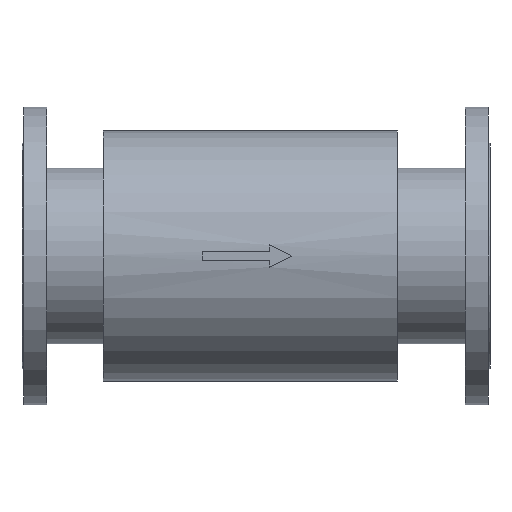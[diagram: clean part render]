
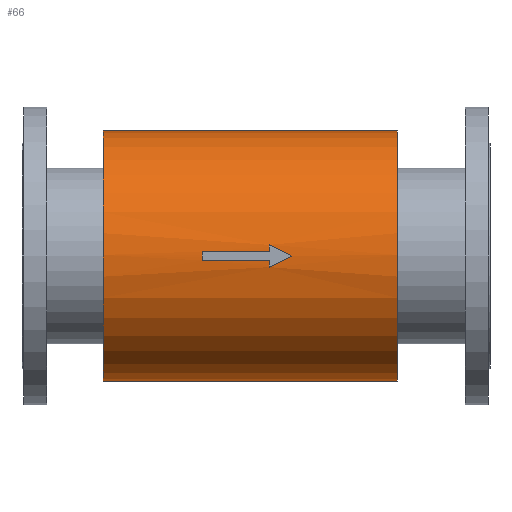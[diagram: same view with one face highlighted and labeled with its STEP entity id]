
A CAD part, front view. The second image highlights one B-rep face of the part: STEP entity #66.
In plain terms, the highlighted cylindrical face has radius 117.55 mm (diameter 235.1 mm), a partial arc.
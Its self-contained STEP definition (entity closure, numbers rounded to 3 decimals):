
#66=ADVANCED_FACE('',(#417,#418),#416,.T.);
#416=CYLINDRICAL_SURFACE('',#1091,117.55);
#417=FACE_OUTER_BOUND('',#1092,.T.);
#418=FACE_BOUND('',#1093,.T.);
#1088=CARTESIAN_POINT('',(1076.3,0.,0.));
#1089=DIRECTION('',(1.,0.,0.));
#1090=DIRECTION('',(0.,0.009,1.));
#1091=AXIS2_PLACEMENT_3D('',#1088,#1089,#1090);
#1092=EDGE_LOOP('',(#1512,#1513,#1514,#1515));
#1093=EDGE_LOOP('',(#1516,#1517,#1518,#1519,#1520,#1521,#1522));
#1512=ORIENTED_EDGE('',*,*,#1745,.T.);
#1513=ORIENTED_EDGE('',*,*,#1872,.F.);
#1514=ORIENTED_EDGE('',*,*,#1868,.F.);
#1515=ORIENTED_EDGE('',*,*,#1873,.T.);
#1516=ORIENTED_EDGE('',*,*,#1732,.T.);
#1517=ORIENTED_EDGE('',*,*,#1866,.T.);
#1518=ORIENTED_EDGE('',*,*,#1864,.T.);
#1519=ORIENTED_EDGE('',*,*,#1736,.T.);
#1520=ORIENTED_EDGE('',*,*,#1858,.T.);
#1521=ORIENTED_EDGE('',*,*,#1728,.T.);
#1522=ORIENTED_EDGE('',*,*,#1859,.T.);
#1728=EDGE_CURVE('',#1922,#1923,#1924,.T.);
#1732=EDGE_CURVE('',#1950,#1951,#1952,.T.);
#1736=EDGE_CURVE('',#1978,#1979,#1980,.T.);
#1745=EDGE_CURVE('',#2042,#2034,#2043,.T.);
#1858=EDGE_CURVE('',#1979,#1922,#2825,.T.);
#1859=EDGE_CURVE('',#1923,#1950,#2831,.T.);
#1864=EDGE_CURVE('',#2862,#1978,#2863,.T.);
#1866=EDGE_CURVE('',#1951,#2862,#2875,.T.);
#1868=EDGE_CURVE('',#2882,#2889,#2890,.T.);
#1872=EDGE_CURVE('',#2889,#2034,#2916,.T.);
#1873=EDGE_CURVE('',#2882,#2042,#2922,.T.);
#1922=VERTEX_POINT('',#3216);
#1923=VERTEX_POINT('',#3217);
#1924=CIRCLE('',#3221,117.55);
#1950=VERTEX_POINT('',#3233);
#1951=VERTEX_POINT('',#3234);
#1952=CIRCLE('',#3238,117.55);
#1978=VERTEX_POINT('',#3250);
#1979=VERTEX_POINT('',#3251);
#1980=(BOUNDED_CURVE() B_SPLINE_CURVE(2,(#3252,#3253,#3254),.UNSPECIFIED.,.F.,.F.) B_SPLINE_CURVE_WITH_KNOTS((3,3),(-4.802,-4.712),.UNSPECIFIED.) CURVE() GEOMETRIC_REPRESENTATION_ITEM() RATIONAL_B_SPLINE_CURVE((1.,0.999,1.)) REPRESENTATION_ITEM('') );
#2034=VERTEX_POINT('',#3283);
#2042=VERTEX_POINT('',#3289);
#2043=CIRCLE('',#3293,117.55);
#2825=(BOUNDED_CURVE() B_SPLINE_CURVE(2,(#3830,#3831,#3832),.UNSPECIFIED.,.F.,.F.) B_SPLINE_CURVE_WITH_KNOTS((3,3),(-1.571,-1.481),.UNSPECIFIED.) CURVE() GEOMETRIC_REPRESENTATION_ITEM() RATIONAL_B_SPLINE_CURVE((1.,0.999,1.)) REPRESENTATION_ITEM('') );
#2831=LINE('',#3833,#3834);
#2862=VERTEX_POINT('',#3850);
#2863=CIRCLE('',#3854,117.55);
#2875=LINE('',#3858,#3859);
#2882=VERTEX_POINT('',#3862);
#2889=VERTEX_POINT('',#3867);
#2890=CIRCLE('',#3871,117.55);
#2916=(BOUNDED_CURVE() B_SPLINE_CURVE(1,(#3886,#3887),.UNSPECIFIED.,.F.,.F.) B_SPLINE_CURVE_WITH_KNOTS((2,2),(0.034,0.966),.UNSPECIFIED.) CURVE() GEOMETRIC_REPRESENTATION_ITEM() RATIONAL_B_SPLINE_CURVE((1.,1.)) REPRESENTATION_ITEM('') );
#2922=(BOUNDED_CURVE() B_SPLINE_CURVE(1,(#3888,#3889),.UNSPECIFIED.,.F.,.F.) B_SPLINE_CURVE_WITH_KNOTS((2,2),(0.034,0.966),.UNSPECIFIED.) CURVE() GEOMETRIC_REPRESENTATION_ITEM() RATIONAL_B_SPLINE_CURVE((0.75,0.75)) REPRESENTATION_ITEM('') );
#3216=CARTESIAN_POINT('',(232.3,-117.08,-10.5));
#3217=CARTESIAN_POINT('',(232.3,-117.475,-4.2));
#3218=CARTESIAN_POINT('',(232.3,0.,0.));
#3219=DIRECTION('',(-1.,0.,0.));
#3220=DIRECTION('',(0.,0.,1.));
#3221=AXIS2_PLACEMENT_3D('',#3218,#3219,#3220);
#3233=CARTESIAN_POINT('',(169.3,-117.475,-4.2));
#3234=CARTESIAN_POINT('',(169.3,-117.475,4.2));
#3235=CARTESIAN_POINT('',(169.3,0.,0.));
#3236=DIRECTION('',(-1.,0.,0.));
#3237=DIRECTION('',(0.,0.,1.));
#3238=AXIS2_PLACEMENT_3D('',#3235,#3236,#3237);
#3250=CARTESIAN_POINT('',(232.3,-117.08,10.5));
#3251=CARTESIAN_POINT('',(253.3,-117.55,0.));
#3252=CARTESIAN_POINT('',(232.3,-117.08,10.5));
#3253=CARTESIAN_POINT('',(242.779,-117.55,5.261));
#3254=CARTESIAN_POINT('',(253.3,-117.55,0.));
#3283=CARTESIAN_POINT('',(353.,1.026,117.546));
#3289=CARTESIAN_POINT('',(353.,-1.026,-117.546));
#3290=CARTESIAN_POINT('',(353.,0.,0.));
#3291=DIRECTION('',(-1.,0.,0.));
#3292=DIRECTION('',(0.,0.,-1.));
#3293=AXIS2_PLACEMENT_3D('',#3290,#3291,#3292);
#3830=CARTESIAN_POINT('',(253.3,-117.55,0.));
#3831=CARTESIAN_POINT('',(242.779,-117.55,-5.261));
#3832=CARTESIAN_POINT('',(232.3,-117.08,-10.5));
#3833=CARTESIAN_POINT('',(232.3,-117.475,-4.2));
#3834=VECTOR('',#3835,63.);
#3835=DIRECTION('',(-1.,0.,0.));
#3850=CARTESIAN_POINT('',(232.3,-117.475,4.2));
#3851=CARTESIAN_POINT('',(232.3,0.,0.));
#3852=DIRECTION('',(-1.,0.,0.));
#3853=DIRECTION('',(0.,0.,1.));
#3854=AXIS2_PLACEMENT_3D('',#3851,#3852,#3853);
#3858=CARTESIAN_POINT('',(169.3,-117.475,4.2));
#3859=VECTOR('',#3860,63.);
#3860=DIRECTION('',(1.,0.,0.));
#3862=CARTESIAN_POINT('',(76.3,-1.026,-117.546));
#3867=CARTESIAN_POINT('',(76.3,1.026,117.546));
#3868=CARTESIAN_POINT('',(76.3,0.,0.));
#3869=DIRECTION('',(-1.,0.,0.));
#3870=DIRECTION('',(0.,0.,-1.));
#3871=AXIS2_PLACEMENT_3D('',#3868,#3869,#3870);
#3886=CARTESIAN_POINT('',(76.3,1.026,117.546));
#3887=CARTESIAN_POINT('',(353.,1.026,117.546));
#3888=CARTESIAN_POINT('',(76.3,-1.026,-117.546));
#3889=CARTESIAN_POINT('',(353.,-1.026,-117.546));
